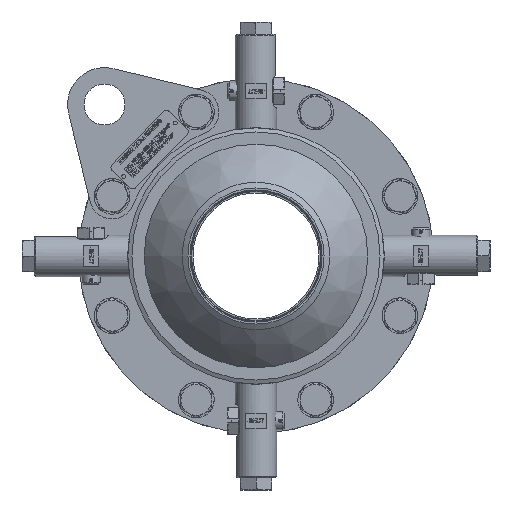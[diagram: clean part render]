
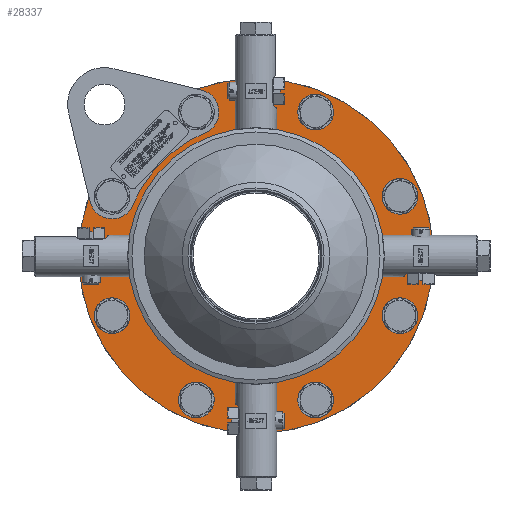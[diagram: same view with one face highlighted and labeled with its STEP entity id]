
A CAD part, left-side view. The second image highlights one B-rep face of the part: STEP entity #28337.
In plain terms, the highlighted planar face has unit normal (-1, 0, 0).
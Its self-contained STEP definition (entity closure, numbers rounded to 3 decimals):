
#7375=PLANE('',#30010);
#8487=FACE_BOUND('',#10401,.T.);
#8488=FACE_BOUND('',#10402,.T.);
#8489=FACE_BOUND('',#10403,.T.);
#8490=FACE_BOUND('',#10404,.T.);
#8491=FACE_BOUND('',#10405,.T.);
#8492=FACE_BOUND('',#10406,.T.);
#8493=FACE_BOUND('',#10407,.T.);
#8494=FACE_BOUND('',#10408,.T.);
#8495=FACE_BOUND('',#10409,.T.);
#8496=FACE_BOUND('',#10410,.T.);
#10401=EDGE_LOOP('',(#19196));
#10402=EDGE_LOOP('',(#19197));
#10403=EDGE_LOOP('',(#19198));
#10404=EDGE_LOOP('',(#19199));
#10405=EDGE_LOOP('',(#19200));
#10406=EDGE_LOOP('',(#19201));
#10407=EDGE_LOOP('',(#19202));
#10408=EDGE_LOOP('',(#19203));
#10409=EDGE_LOOP('',(#19204));
#10410=EDGE_LOOP('',(#19205));
#12161=CIRCLE('',#29952,0.354);
#12163=CIRCLE('',#29955,0.354);
#12165=CIRCLE('',#29958,0.354);
#12167=CIRCLE('',#29961,0.354);
#12169=CIRCLE('',#29964,0.354);
#12171=CIRCLE('',#29967,0.354);
#12173=CIRCLE('',#29970,0.354);
#12175=CIRCLE('',#29973,0.354);
#12196=CIRCLE('',#30009,3.906);
#12197=CIRCLE('',#30011,5.407);
#12368=VERTEX_POINT('',#37405);
#12370=VERTEX_POINT('',#37410);
#12372=VERTEX_POINT('',#37415);
#12374=VERTEX_POINT('',#37420);
#12376=VERTEX_POINT('',#37425);
#12378=VERTEX_POINT('',#37430);
#12380=VERTEX_POINT('',#37435);
#12382=VERTEX_POINT('',#37440);
#12403=VERTEX_POINT('',#37577);
#12404=VERTEX_POINT('',#37580);
#15077=EDGE_CURVE('',#12368,#12368,#12161,.T.);
#15079=EDGE_CURVE('',#12370,#12370,#12163,.T.);
#15081=EDGE_CURVE('',#12372,#12372,#12165,.T.);
#15083=EDGE_CURVE('',#12374,#12374,#12167,.T.);
#15085=EDGE_CURVE('',#12376,#12376,#12169,.T.);
#15087=EDGE_CURVE('',#12378,#12378,#12171,.T.);
#15089=EDGE_CURVE('',#12380,#12380,#12173,.T.);
#15091=EDGE_CURVE('',#12382,#12382,#12175,.T.);
#15114=EDGE_CURVE('',#12403,#12403,#12196,.T.);
#15115=EDGE_CURVE('',#12404,#12404,#12197,.T.);
#19196=ORIENTED_EDGE('',*,*,#15077,.T.);
#19197=ORIENTED_EDGE('',*,*,#15079,.T.);
#19198=ORIENTED_EDGE('',*,*,#15081,.T.);
#19199=ORIENTED_EDGE('',*,*,#15083,.T.);
#19200=ORIENTED_EDGE('',*,*,#15085,.T.);
#19201=ORIENTED_EDGE('',*,*,#15087,.T.);
#19202=ORIENTED_EDGE('',*,*,#15089,.T.);
#19203=ORIENTED_EDGE('',*,*,#15091,.T.);
#19204=ORIENTED_EDGE('',*,*,#15115,.F.);
#19205=ORIENTED_EDGE('',*,*,#15114,.T.);
#28337=ADVANCED_FACE('',(#8487,#8488,#8489,#8490,#8491,#8492,#8493,#8494,
#8495,#8496),#7375,.T.);
#29952=AXIS2_PLACEMENT_3D('',#37406,#31397,#31398);
#29955=AXIS2_PLACEMENT_3D('',#37411,#31403,#31404);
#29958=AXIS2_PLACEMENT_3D('',#37416,#31409,#31410);
#29961=AXIS2_PLACEMENT_3D('',#37421,#31415,#31416);
#29964=AXIS2_PLACEMENT_3D('',#37426,#31421,#31422);
#29967=AXIS2_PLACEMENT_3D('',#37431,#31427,#31428);
#29970=AXIS2_PLACEMENT_3D('',#37436,#31433,#31434);
#29973=AXIS2_PLACEMENT_3D('',#37441,#31439,#31440);
#30009=AXIS2_PLACEMENT_3D('',#37578,#31511,#31512);
#30010=AXIS2_PLACEMENT_3D('',#37579,#31513,#31514);
#30011=AXIS2_PLACEMENT_3D('',#37581,#31515,#31516);
#31397=DIRECTION('center_axis',(1.,0.,0.));
#31398=DIRECTION('ref_axis',(0.,-0.707,-0.707));
#31403=DIRECTION('center_axis',(1.,0.,0.));
#31404=DIRECTION('ref_axis',(0.,-1.,0.));
#31409=DIRECTION('center_axis',(1.,0.,0.));
#31410=DIRECTION('ref_axis',(0.,-0.707,0.707));
#31415=DIRECTION('center_axis',(1.,0.,0.));
#31416=DIRECTION('ref_axis',(0.,0.,
1.));
#31421=DIRECTION('center_axis',(1.,0.,0.));
#31422=DIRECTION('ref_axis',(0.,0.707,0.707));
#31427=DIRECTION('center_axis',(1.,0.,0.));
#31428=DIRECTION('ref_axis',(0.,1.,0.));
#31433=DIRECTION('center_axis',(1.,0.,0.));
#31434=DIRECTION('ref_axis',(0.,0.707,-0.707));
#31439=DIRECTION('center_axis',(1.,0.,0.));
#31440=DIRECTION('ref_axis',(0.,0.,-1.));
#31511=DIRECTION('center_axis',(1.,0.,0.));
#31512=DIRECTION('ref_axis',(0.,1.,0.));
#31513=DIRECTION('center_axis',(-1.,0.,0.));
#31514=DIRECTION('ref_axis',(0.,0.,1.));
#31515=DIRECTION('center_axis',(1.,0.,0.));
#31516=DIRECTION('ref_axis',(0.,1.,0.));
#37405=CARTESIAN_POINT('',(-0.827,4.639,-1.567));
#37406=CARTESIAN_POINT('Origin',(-0.827,4.388,-1.818));
#37410=CARTESIAN_POINT('',(-0.827,2.172,-4.388));
#37411=CARTESIAN_POINT('Origin',(-0.827,1.817,-4.388));
#37415=CARTESIAN_POINT('',(-0.827,-1.567,-4.639));
#37416=CARTESIAN_POINT('Origin',(-0.827,-1.818,-4.388));
#37420=CARTESIAN_POINT('',(-0.827,-4.389,-2.172));
#37421=CARTESIAN_POINT('Origin',(-0.827,-4.389,-1.818));
#37425=CARTESIAN_POINT('',(-0.827,-4.639,1.567));
#37426=CARTESIAN_POINT('Origin',(-0.827,-4.389,1.818));
#37430=CARTESIAN_POINT('',(-0.827,-2.172,4.388));
#37431=CARTESIAN_POINT('Origin',(-0.827,-1.818,4.388));
#37435=CARTESIAN_POINT('',(-0.827,1.567,4.639));
#37436=CARTESIAN_POINT('Origin',(-0.827,1.817,4.388));
#37440=CARTESIAN_POINT('',(-0.827,4.388,2.172));
#37441=CARTESIAN_POINT('Origin',(-0.827,4.388,1.818));
#37577=CARTESIAN_POINT('',(-0.827,3.906,0.));
#37578=CARTESIAN_POINT('Origin',(-0.827,0.,
0.));
#37579=CARTESIAN_POINT('Origin',(-0.827,4.656,0.));
#37580=CARTESIAN_POINT('',(-0.827,5.406,0.));
#37581=CARTESIAN_POINT('Origin',(-0.827,0.,
0.));
